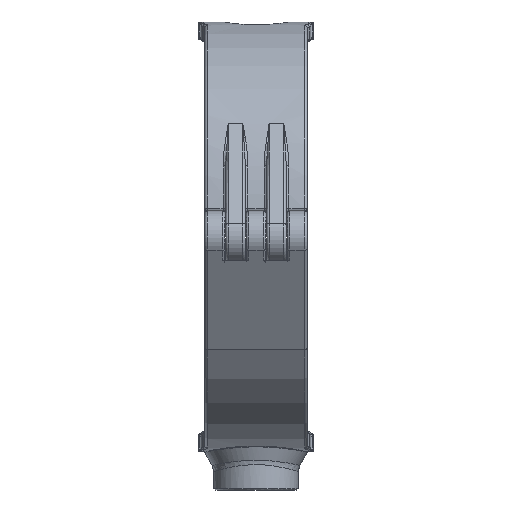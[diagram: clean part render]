
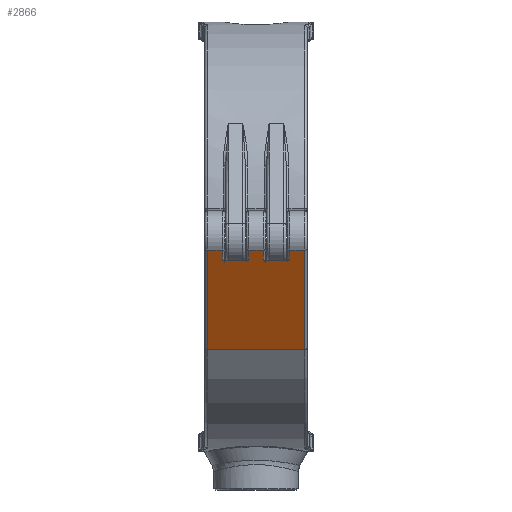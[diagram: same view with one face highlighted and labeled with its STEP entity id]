
A CAD part, front view. The second image highlights one B-rep face of the part: STEP entity #2866.
In plain terms, the highlighted planar face has unit normal (0, -0.851, -0.526).
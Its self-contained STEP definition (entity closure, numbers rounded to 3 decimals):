
#2866=ADVANCED_FACE('',(#4079),#3477,.T.);
#3477=PLANE('',#16539);
#4079=FACE_OUTER_BOUND('',#5144,.T.);
#5144=EDGE_LOOP('',(#8441,#8442,#8443,#8444,#8445,#8446,#8447,#8448,#8449,
#8450,#8451,#8452));
#8441=ORIENTED_EDGE('',*,*,#13104,.T.);
#8442=ORIENTED_EDGE('',*,*,#13108,.T.);
#8443=ORIENTED_EDGE('',*,*,#13109,.F.);
#8444=ORIENTED_EDGE('',*,*,#13110,.T.);
#8445=ORIENTED_EDGE('',*,*,#13111,.T.);
#8446=ORIENTED_EDGE('',*,*,#13112,.T.);
#8447=ORIENTED_EDGE('',*,*,#13113,.T.);
#8448=ORIENTED_EDGE('',*,*,#13114,.T.);
#8449=ORIENTED_EDGE('',*,*,#13098,.T.);
#8450=ORIENTED_EDGE('',*,*,#13115,.T.);
#8451=ORIENTED_EDGE('',*,*,#13116,.T.);
#8452=ORIENTED_EDGE('',*,*,#13117,.T.);
#11324=VERTEX_POINT('',#29482);
#11325=VERTEX_POINT('',#29484);
#11330=VERTEX_POINT('',#29496);
#11331=VERTEX_POINT('',#29498);
#11334=VERTEX_POINT('',#29507);
#11335=VERTEX_POINT('',#29509);
#11336=VERTEX_POINT('',#29511);
#11337=VERTEX_POINT('',#29513);
#11338=VERTEX_POINT('',#29515);
#11339=VERTEX_POINT('',#29517);
#11340=VERTEX_POINT('',#29520);
#11341=VERTEX_POINT('',#29522);
#13098=EDGE_CURVE('',#11325,#11324,#14549,.T.);
#13104=EDGE_CURVE('',#11331,#11330,#14551,.T.);
#13108=EDGE_CURVE('',#11330,#11334,#14552,.T.);
#13109=EDGE_CURVE('',#11335,#11334,#14553,.T.);
#13110=EDGE_CURVE('',#11335,#11336,#14554,.T.);
#13111=EDGE_CURVE('',#11336,#11337,#14555,.T.);
#13112=EDGE_CURVE('',#11337,#11338,#14556,.T.);
#13113=EDGE_CURVE('',#11338,#11339,#14557,.T.);
#13114=EDGE_CURVE('',#11339,#11325,#14558,.T.);
#13115=EDGE_CURVE('',#11324,#11340,#14559,.T.);
#13116=EDGE_CURVE('',#11340,#11341,#14560,.T.);
#13117=EDGE_CURVE('',#11341,#11331,#14561,.T.);
#14549=LINE('',#29483,#15180);
#14551=LINE('',#29497,#15182);
#14552=LINE('',#29506,#15183);
#14553=LINE('',#29508,#15184);
#14554=LINE('',#29510,#15185);
#14555=LINE('',#29512,#15186);
#14556=LINE('',#29514,#15187);
#14557=LINE('',#29516,#15188);
#14558=LINE('',#29518,#15189);
#14559=LINE('',#29519,#15190);
#14560=LINE('',#29521,#15191);
#14561=LINE('',#29523,#15192);
#15180=VECTOR('',#19962,1.);
#15182=VECTOR('',#19976,1.);
#15183=VECTOR('',#19987,1.);
#15184=VECTOR('',#19988,1.);
#15185=VECTOR('',#19989,1.);
#15186=VECTOR('',#19990,1.);
#15187=VECTOR('',#19991,1.);
#15188=VECTOR('',#19992,1.);
#15189=VECTOR('',#19993,1.);
#15190=VECTOR('',#19994,1.);
#15191=VECTOR('',#19995,1.);
#15192=VECTOR('',#19996,1.);
#16539=AXIS2_PLACEMENT_3D('',#29524,#19997,#19998);
#19962=DIRECTION('',(-1.,0.,0.));
#19976=DIRECTION('',(-1.,0.,0.));
#19987=DIRECTION('',(0.,0.526,-0.851));
#19988=DIRECTION('',(-1.,0.,0.));
#19989=DIRECTION('',(0.,-0.526,0.851));
#19990=DIRECTION('',(-1.,0.,0.));
#19991=DIRECTION('',(0.,0.526,-0.851));
#19992=DIRECTION('',(-1.,0.,0.));
#19993=DIRECTION('',(0.,-0.526,0.851));
#19994=DIRECTION('',(0.,0.526,-0.851));
#19995=DIRECTION('',(-1.,0.,0.));
#19996=DIRECTION('',(0.,-0.526,0.851));
#19997=DIRECTION('',(0.,-0.851,-0.526));
#19998=DIRECTION('',(0.,0.526,-0.851));
#29482=CARTESIAN_POINT('',(-2.85,-95.506,-5.259));
#29483=CARTESIAN_POINT('',(20.,-95.506,-5.259));
#29484=CARTESIAN_POINT('',(2.85,-95.506,-5.259));
#29496=CARTESIAN_POINT('',(-19.,-95.506,-5.259));
#29497=CARTESIAN_POINT('',(20.,-95.506,-5.259));
#29498=CARTESIAN_POINT('',(-13.15,-95.506,-5.259));
#29506=CARTESIAN_POINT('',(-19.,-71.448,-44.172));
#29507=CARTESIAN_POINT('',(-19.,-71.448,-44.172));
#29508=CARTESIAN_POINT('',(20.,-71.448,-44.172));
#29509=CARTESIAN_POINT('',(19.,-71.448,-44.172));
#29510=CARTESIAN_POINT('',(19.,-95.506,-5.259));
#29511=CARTESIAN_POINT('',(19.,-95.506,-5.259));
#29512=CARTESIAN_POINT('',(20.,-95.506,-5.259));
#29513=CARTESIAN_POINT('',(13.15,-95.506,-5.259));
#29514=CARTESIAN_POINT('',(13.15,-93.096,-9.156));
#29515=CARTESIAN_POINT('',(13.15,-93.096,-9.156));
#29516=CARTESIAN_POINT('',(3.85,-93.096,-9.156));
#29517=CARTESIAN_POINT('',(2.85,-93.096,-9.156));
#29518=CARTESIAN_POINT('',(2.85,-95.506,-5.259));
#29519=CARTESIAN_POINT('',(-2.85,-93.096,-9.156));
#29520=CARTESIAN_POINT('',(-2.85,-93.096,-9.156));
#29521=CARTESIAN_POINT('',(-12.15,-93.096,-9.156));
#29522=CARTESIAN_POINT('',(-13.15,-93.096,-9.156));
#29523=CARTESIAN_POINT('',(-13.15,-95.506,-5.259));
#29524=CARTESIAN_POINT('',(20.,-95.506,-5.259));
